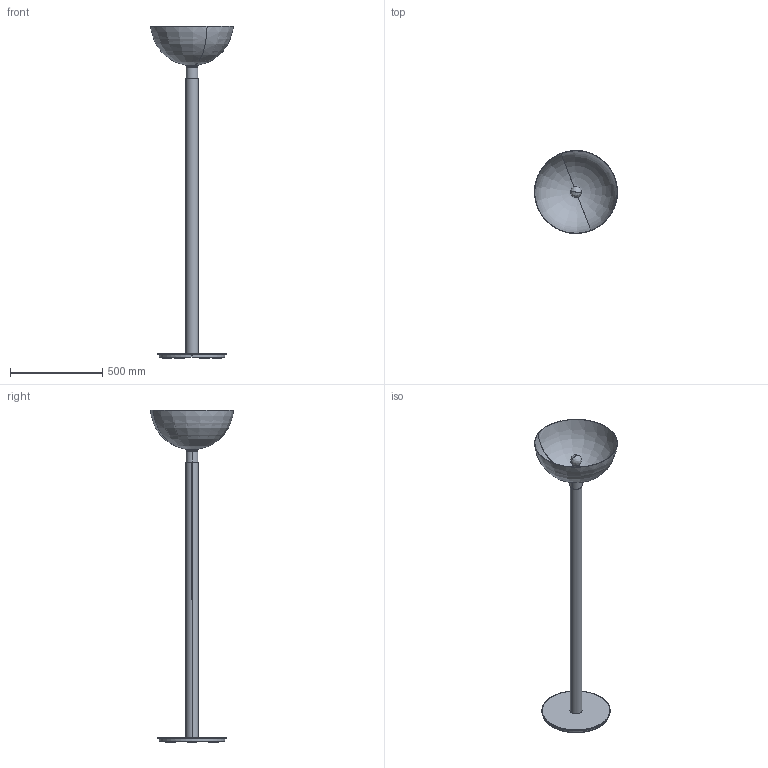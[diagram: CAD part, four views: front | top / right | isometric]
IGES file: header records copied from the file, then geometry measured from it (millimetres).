
Start section: SolidWorks IGES file using analytic representation for surfaces
Global section: file name: C:\Users\tungari.NEMOLIGHTING\Desktop\3D\FLOOR\Add_lamp\3D_AM2Z_FLOOR\3D_AM2Z_defeature\ADDED_LAMP\3D_AM2Z_SW.IGS; native system: SolidWorks 2016; preprocessor: SolidWorks 2016; author: tungari; date: 180221.094308; units: millimetre
Bounding box: 449.48 x 449.48 x 1798 mm (x, y, z)
Surface area: 1208118.7 mm2 (no closed solid volume)
Topology: 0 solids, 0 shells, 160 faces, 4576 edges, 4570 vertices
Faces by surface type: revolution 101, bspline 59
